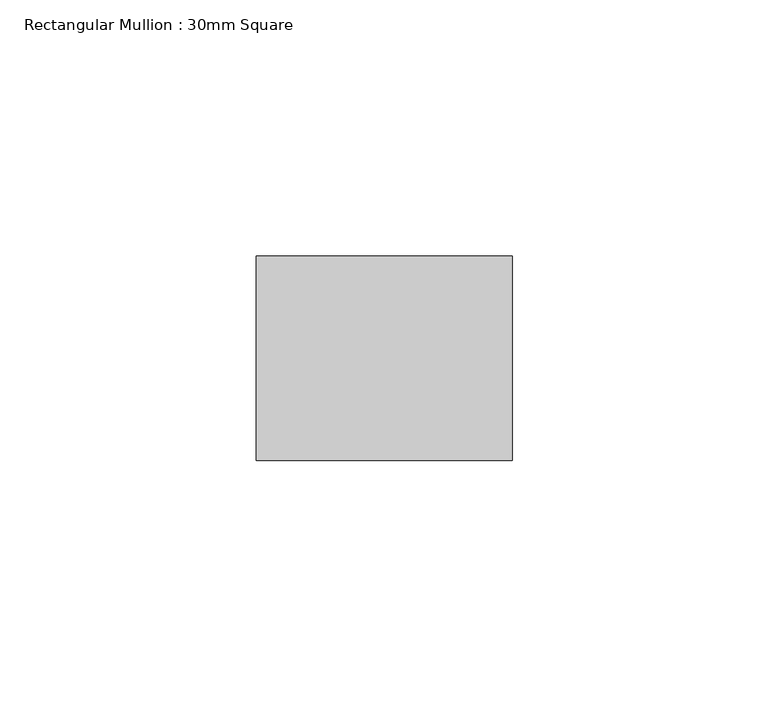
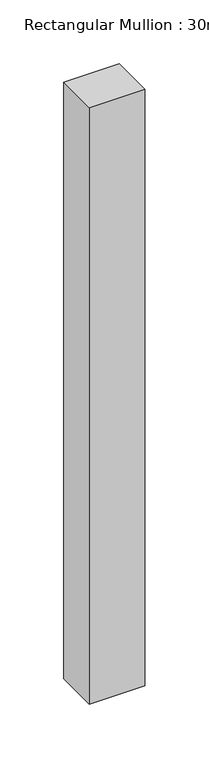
"""IFC4 building model written with IfcOpenShell, lengths in millimetres: member geometry, Rectangular Mullion : 30mm Square."""

from ifc_helpers import new_model, si_unit, frame, origin, place, context, project, spatial, polyline, outline, extrude, source, transform, mapped, element, save


def rectangular_mullion_30mm_square_9f93f3b7(model_context):
    return source(origin(), model_context, "Body", "SweptSolid", [
        extrude(outline(polyline([(0.0, 20.0), (0.0, -20.0), (-50.0, -20.0), (-50.0, 20.0), (0.0, 20.0)])), frame((0.0, 0.0, -570.0), z_axis=(0.0, 0.0, 1.0), x_axis=(1.0, 0.0, 0.0)), (0.0, 0.0, 1.0), 570.0),
    ])


if __name__ == "__main__":
    model = new_model("IFC4")
    model_context = context("Model", 3, world=origin())
    ifc_project = project(units=[si_unit("LENGTHUNIT", "METRE", prefix="MILLI")], contexts=[model_context])
    site = spatial("IfcSite", under=ifc_project)
    building = spatial("IfcBuilding", under=site)
    placement = place(None, origin())
    rectangular_mullion_30mm_square_shape = rectangular_mullion_30mm_square_9f93f3b7(model_context)
    element("IfcMember", 1, ObjectType="Rectangular Mullion : 30mm Square", at=placement, inside=building, context=model_context, shape_type="MappedRepresentation", body=[
        mapped(rectangular_mullion_30mm_square_shape, transform((0.0, 0.0, 0.0), x_axis=(1.0, 0.0, 0.0), y_axis=(0.0, 1.0, 0.0), z_axis=(0.0, 0.0, 1.0))),
    ])
    save(model, "model.ifc")
